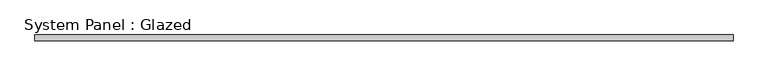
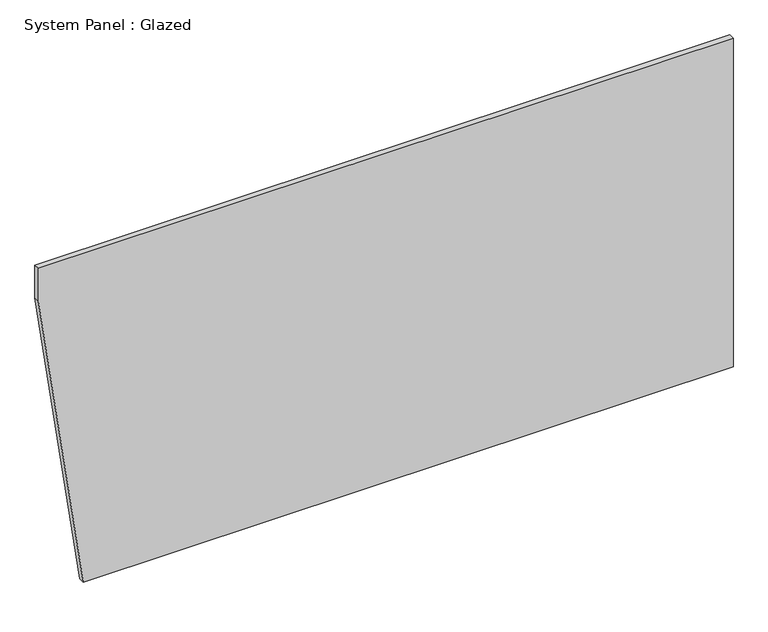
"""IFC4 building model written with IfcOpenShell, lengths in millimetres: plate geometry, System Panel : Glazed."""

from ifc_helpers import new_model, si_unit, frame, origin, place, context, project, spatial, polyline, outline, extrude, source, transform, mapped, element, save


def system_panel_glazed_15626aa9(model_context):
    return source(origin(), model_context, "Body", "SweptSolid", [
        extrude(outline(polyline([(0.0, -1326.6474823), (0.0, 1524.0), (1524.0, 1524.0), (1524.0, -1524.0), (1371.5999979, -1524.0), (0.0, -1326.6474823)])), frame((0.0, 19.05, 0.0), z_axis=(0.0, 1.0, 0.0), x_axis=(0.0, 0.0, 1.0)), (0.0, 0.0, 1.0), 25.4),
    ])


if __name__ == "__main__":
    model = new_model("IFC4")
    model_context = context("Model", 3, world=origin())
    ifc_project = project(units=[si_unit("LENGTHUNIT", "METRE", prefix="MILLI")], contexts=[model_context])
    site = spatial("IfcSite", under=ifc_project)
    building = spatial("IfcBuilding", under=site)
    placement = place(None, origin())
    system_panel_glazed_shape = system_panel_glazed_15626aa9(model_context)
    element("IfcPlate", 1, ObjectType="System Panel : Glazed", at=placement, inside=building, context=model_context, shape_type="MappedRepresentation", body=[
        mapped(system_panel_glazed_shape, transform((0.0, 0.0, 0.0), x_axis=(1.0, 0.0, 0.0), y_axis=(0.0, 1.0, 0.0), z_axis=(0.0, 0.0, 1.0))),
    ])
    save(model, "model.ifc")
